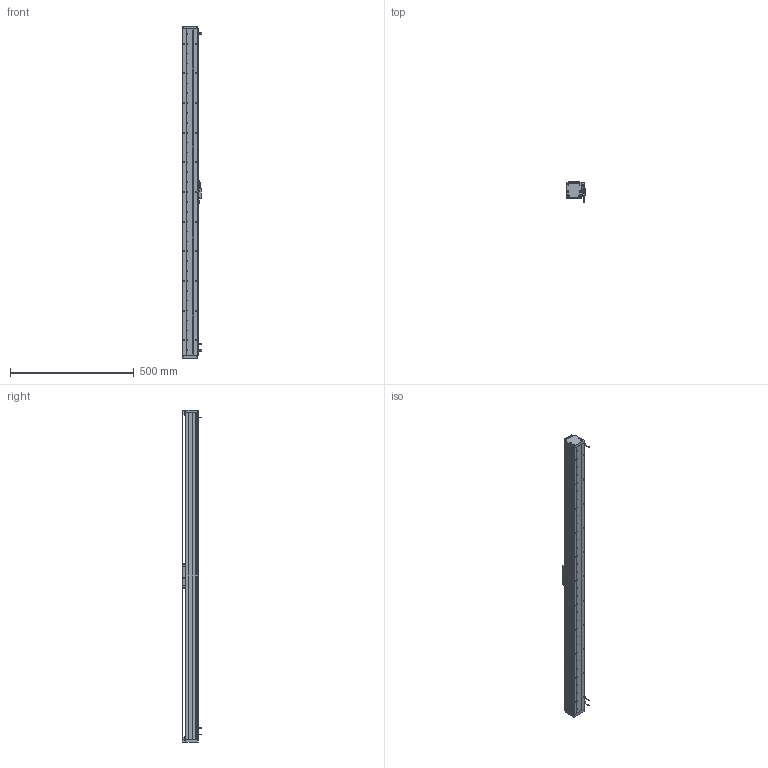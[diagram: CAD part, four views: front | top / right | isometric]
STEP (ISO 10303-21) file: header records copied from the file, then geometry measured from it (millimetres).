
FILE_DESCRIPTION (( 'STEP AP203' ), '1' );
FILE_NAME ('DA-A60-B1-T1180-C010-0.2 眻盄萇儂.STEP', '2025-08-13T02:08:50', ( '' ), ( '' ), 'SwSTEP 2.0', 'SolidWorks 2019', '' );
FILE_SCHEMA (( 'CONFIG_CONTROL_DESIGN' ));
Length unit declared in the file: millimetre
Products named in the file (24): 葩璃 PM-T45^DA-A60-B1-T-C010-0.2-N 眻盄萇儂; 13679-0000-004-00 傷啣; DA-A60-GD-1020-00 钢带盖板(默认); 复件 六角薄螺母 M3^DA-A60-B1-T-C010-0.2-N 直线电机(GB_FASTENER_NUT_STNAB M3-C); 复件 DA-A60-GYP-DMT-00 光电感应片^DA-A60-B1-T-C010-0.2-N 直线电机(默认); 葩璃 AKM01-W030-TRL^DA-A60-B1-T-C010-0.2-N 眻盄萇儂; 复件 BAKM01-W030-C1-TP-0.2 直线电机动子^DA-A60-B1-T-C010-0.2-N 直线电机; DA-A60-B1-T1180-C010-0.2 眻盄萇儂; 复件 XD-U-02  磁栅尺^DA-A60-B1-T-C010-0.2-N 直线电机; 葩璃 DMT-010 1米m 0.2M^DA-A60-B1-T-C010-0.2-N 眻盄萇儂; 复件 DA60-B1-GT-00 滑块钢轨^DA60-YT-B1-HT-B-01 一体化滑动台板; 复件 纯铜油杯 6x6mm^AU60-V 滚珠滑台; 复件 DA60-GT-T-00 底座钢轨^AU60-L 底座导轨; DA60-B1-HT-B-03 賑雄怢啣; 复件 DA60-DMT-DTJ-00 读数头支架^DA-A60-B1-T-C010-0.2-N 直线电机; AU60-L 菁釱絳寢; 葩璃 DA60-HK-DP-01 結え^AU60-V 幗紩賑怢; 13679-0000-006-00  钢带压块(默认); 13679-0000-005-00 詩湍嶺輸; AU60-V 幗紩賑怢; DA60嶺詩湍郪璃-T1060; IU-AU60-L-00 菁釱(1320); DA60-YT-B1-HT-B-01 珨极趙賑雄怢啣; DA60-XJ-00 砎蝶結輸
Assembly tree (38 placements, depth 4):
  DA-A60-B1-T1180-C010-0.2 眻盄萇儂
    AU60-L 菁釱絳寢
      IU-AU60-L-00 菁釱(1320)
      复件 DA60-GT-T-00 底座钢轨^AU60-L 底座导轨  x2
    AU60-V 幗紩賑怢
      DA60-YT-B1-HT-B-01 珨极趙賑雄怢啣
        DA60-B1-HT-B-03 賑雄怢啣
        复件 DA60-B1-GT-00 滑块钢轨^DA60-YT-B1-HT-B-01 一体化滑动台板  x2
      葩璃 DA60-HK-DP-01 結え^AU60-V 幗紩賑怢  x2
      复件 纯铜油杯 6x6mm^AU60-V 滚珠滑台
    DA60嶺詩湍郪璃-T1060
      13679-0000-006-00  钢带压块(默认)  x2
      DA-A60-GD-1020-00 钢带盖板(默认)
      13679-0000-004-00 傷啣  x2
      DA60-XJ-00 砎蝶結輸  x2
      13679-0000-005-00 詩湍嶺輸  x2
    复件 DA-A60-GYP-DMT-00 光电感应片^DA-A60-B1-T-C010-0.2-N 直线电机(默认)  x2
    复件 DA60-DMT-DTJ-00 读数头支架^DA-A60-B1-T-C010-0.2-N 直线电机
    葩璃 DMT-010 1米m 0.2M^DA-A60-B1-T-C010-0.2-N 眻盄萇儂
    复件 BAKM01-W030-C1-TP-0.2 直线电机动子^DA-A60-B1-T-C010-0.2-N 直线电机
    葩璃 AKM01-W030-TRL^DA-A60-B1-T-C010-0.2-N 眻盄萇儂
    葩璃 PM-T45^DA-A60-B1-T-C010-0.2-N 眻盄萇儂  x3
    复件 XD-U-02  磁栅尺^DA-A60-B1-T-C010-0.2-N 直线电机
    复件 六角薄螺母 M3^DA-A60-B1-T-C010-0.2-N 直线电机(GB_FASTENER_NUT_STNAB M3-C)  x6
Bounding box: 76.95 x 80 x 1344 mm (x, y, z)
Volume: 2615898.6 mm3; surface area: 942254.4 mm2
Topology: 39 solids, 41 shells, 2248 faces, 6274 edges, 4009 vertices
Faces by surface type: plane 1033, cylinder 1017, cone 186, bspline 7, torus 4, sphere 1
Entity records: 65618 total; most frequent: CARTESIAN_POINT 15451, ORIENTED_EDGE 10096, DIRECTION 9656, EDGE_CURVE 5048, AXIS2_PLACEMENT_3D 3401, VERTEX_POINT 3287, VECTOR 2854, LINE 2854
